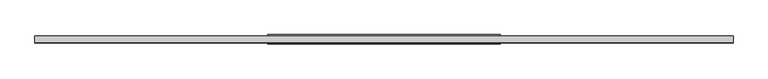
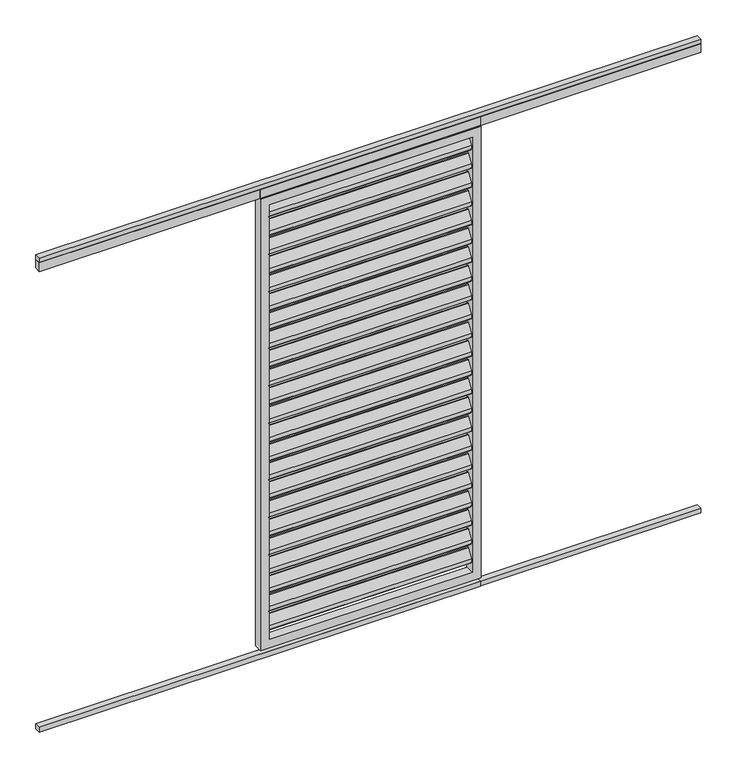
"""IFC4 building model written with IfcOpenShell, lengths in millimetres: proxy geometry, Renson_Algarve_Loggia_Paro_Aluminium : Renson_Algarve_Loggia_Paro_Aluminium."""

from ifc_helpers import new_model, si_unit, point, frame, frame_2d, origin, origin_with_axes, place, context, project, spatial, polyline, circle_curve, trimmed, segment, composite_curve, outline, extrude, source, transform, mapped, element, save


def generic_models_8ee95c79(model_context):
    return source(origin(), model_context, "Body", "SweptSolid", [
        extrude(outline(composite_curve([segment(trimmed(circle_curve(frame_2d((12.6675921, 2162.6587719)), 3.0), [point((10.1515804, 2164.292689))], [point((15.6675921, 2162.6587719))], False, "CARTESIAN"), True, "CONTINUOUS"), segment(polyline([(15.6675921, 2162.6587719), (15.6675921, 2144.2979873)]), True, "CONTINUOUS"), segment(trimmed(circle_curve(frame_2d((12.6675921, 2144.2979873)), 3.0), [point((15.6675921, 2144.2979873))], [point((15.1836038, 2142.6640702))], False, "CARTESIAN"), True, "CONTINUOUS"), segment(polyline([(15.1836038, 2142.6640702), (-8.8163962, 2105.707311)]), True, "CONTINUOUS"), segment(trimmed(circle_curve(frame_2d((-11.3324079, 2107.3412281)), 3.0), [point((-8.8163962, 2105.707311))], [point((-14.3324079, 2107.3412281))], False, "CARTESIAN"), True, "CONTINUOUS"), segment(polyline([(-14.3324079, 2107.3412281), (-14.3324079, 2126.5906532), (10.1515804, 2164.292689)]), True, "CONTINUOUS")], self_intersect=False)), frame((-460.0, 0.0, 0.0), z_axis=(1.0, 0.0, 0.0), x_axis=(0.0, 1.0, 0.0)), (0.0, 0.0, 1.0), 920.0),
        extrude(outline(composite_curve([segment(trimmed(circle_curve(frame_2d((12.6675921, 2072.6587719)), 3.0), [point((10.1515804, 2074.292689))], [point((15.6675921, 2072.6587719))], False, "CARTESIAN"), True, "CONTINUOUS"), segment(polyline([(15.6675921, 2072.6587719), (15.6675921, 2054.2979873)]), True, "CONTINUOUS"), segment(trimmed(circle_curve(frame_2d((12.6675921, 2054.2979873)), 3.0), [point((15.6675921, 2054.2979873))], [point((15.1836038, 2052.6640702))], False, "CARTESIAN"), True, "CONTINUOUS"), segment(polyline([(15.1836038, 2052.6640702), (-8.8163962, 2015.707311)]), True, "CONTINUOUS"), segment(trimmed(circle_curve(frame_2d((-11.3324079, 2017.3412281)), 3.0), [point((-8.8163962, 2015.707311))], [point((-14.3324079, 2017.3412281))], False, "CARTESIAN"), True, "CONTINUOUS"), segment(polyline([(-14.3324079, 2017.3412281), (-14.3324079, 2036.5906532), (10.1515804, 2074.292689)]), True, "CONTINUOUS")], self_intersect=False)), frame((-460.0, 0.0, 0.0), z_axis=(1.0, 0.0, 0.0), x_axis=(0.0, 1.0, 0.0)), (0.0, 0.0, 1.0), 920.0),
        extrude(outline(composite_curve([segment(trimmed(circle_curve(frame_2d((12.6675921, 1982.6587719)), 3.0), [point((10.1515804, 1984.292689))], [point((15.6675921, 1982.6587719))], False, "CARTESIAN"), True, "CONTINUOUS"), segment(polyline([(15.6675921, 1982.6587719), (15.6675921, 1964.2979873)]), True, "CONTINUOUS"), segment(trimmed(circle_curve(frame_2d((12.6675921, 1964.2979873)), 3.0), [point((15.6675921, 1964.2979873))], [point((15.1836038, 1962.6640702))], False, "CARTESIAN"), True, "CONTINUOUS"), segment(polyline([(15.1836038, 1962.6640702), (-8.8163962, 1925.707311)]), True, "CONTINUOUS"), segment(trimmed(circle_curve(frame_2d((-11.3324079, 1927.3412281)), 3.0), [point((-8.8163962, 1925.707311))], [point((-14.3324079, 1927.3412281))], False, "CARTESIAN"), True, "CONTINUOUS"), segment(polyline([(-14.3324079, 1927.3412281), (-14.3324079, 1946.5906532), (10.1515804, 1984.292689)]), True, "CONTINUOUS")], self_intersect=False)), frame((-460.0, 0.0, 0.0), z_axis=(1.0, 0.0, 0.0), x_axis=(0.0, 1.0, 0.0)), (0.0, 0.0, 1.0), 920.0),
        extrude(outline(composite_curve([segment(trimmed(circle_curve(frame_2d((12.6675921, 1892.6587719)), 3.0), [point((10.1515804, 1894.292689))], [point((15.6675921, 1892.6587719))], False, "CARTESIAN"), True, "CONTINUOUS"), segment(polyline([(15.6675921, 1892.6587719), (15.6675921, 1874.2979873)]), True, "CONTINUOUS"), segment(trimmed(circle_curve(frame_2d((12.6675921, 1874.2979873)), 3.0), [point((15.6675921, 1874.2979873))], [point((15.1836038, 1872.6640702))], False, "CARTESIAN"), True, "CONTINUOUS"), segment(polyline([(15.1836038, 1872.6640702), (-8.8163962, 1835.707311)]), True, "CONTINUOUS"), segment(trimmed(circle_curve(frame_2d((-11.3324079, 1837.3412281)), 3.0), [point((-8.8163962, 1835.707311))], [point((-14.3324079, 1837.3412281))], False, "CARTESIAN"), True, "CONTINUOUS"), segment(polyline([(-14.3324079, 1837.3412281), (-14.3324079, 1856.5906532), (10.1515804, 1894.292689)]), True, "CONTINUOUS")], self_intersect=False)), frame((-460.0, 0.0, 0.0), z_axis=(1.0, 0.0, 0.0), x_axis=(0.0, 1.0, 0.0)), (0.0, 0.0, 1.0), 920.0),
        extrude(outline(composite_curve([segment(trimmed(circle_curve(frame_2d((12.6675921, 1802.6587719)), 3.0), [point((10.1515804, 1804.292689))], [point((15.6675921, 1802.6587719))], False, "CARTESIAN"), True, "CONTINUOUS"), segment(polyline([(15.6675921, 1802.6587719), (15.6675921, 1784.2979873)]), True, "CONTINUOUS"), segment(trimmed(circle_curve(frame_2d((12.6675921, 1784.2979873)), 3.0), [point((15.6675921, 1784.2979873))], [point((15.1836038, 1782.6640702))], False, "CARTESIAN"), True, "CONTINUOUS"), segment(polyline([(15.1836038, 1782.6640702), (-8.8163962, 1745.707311)]), True, "CONTINUOUS"), segment(trimmed(circle_curve(frame_2d((-11.3324079, 1747.3412281)), 3.0), [point((-8.8163962, 1745.707311))], [point((-14.3324079, 1747.3412281))], False, "CARTESIAN"), True, "CONTINUOUS"), segment(polyline([(-14.3324079, 1747.3412281), (-14.3324079, 1766.5906532), (10.1515804, 1804.292689)]), True, "CONTINUOUS")], self_intersect=False)), frame((-460.0, 0.0, 0.0), z_axis=(1.0, 0.0, 0.0), x_axis=(0.0, 1.0, 0.0)), (0.0, 0.0, 1.0), 920.0),
        extrude(outline(composite_curve([segment(trimmed(circle_curve(frame_2d((12.6675921, 1712.6587719)), 3.0), [point((10.1515804, 1714.292689))], [point((15.6675921, 1712.6587719))], False, "CARTESIAN"), True, "CONTINUOUS"), segment(polyline([(15.6675921, 1712.6587719), (15.6675921, 1694.2979873)]), True, "CONTINUOUS"), segment(trimmed(circle_curve(frame_2d((12.6675921, 1694.2979873)), 3.0), [point((15.6675921, 1694.2979873))], [point((15.1836038, 1692.6640702))], False, "CARTESIAN"), True, "CONTINUOUS"), segment(polyline([(15.1836038, 1692.6640702), (-8.8163962, 1655.707311)]), True, "CONTINUOUS"), segment(trimmed(circle_curve(frame_2d((-11.3324079, 1657.3412281)), 3.0), [point((-8.8163962, 1655.707311))], [point((-14.3324079, 1657.3412281))], False, "CARTESIAN"), True, "CONTINUOUS"), segment(polyline([(-14.3324079, 1657.3412281), (-14.3324079, 1676.5906532), (10.1515804, 1714.292689)]), True, "CONTINUOUS")], self_intersect=False)), frame((-460.0, 0.0, 0.0), z_axis=(1.0, 0.0, 0.0), x_axis=(0.0, 1.0, 0.0)), (0.0, 0.0, 1.0), 920.0),
        extrude(outline(composite_curve([segment(trimmed(circle_curve(frame_2d((12.6675921, 1622.6587719)), 3.0), [point((10.1515804, 1624.292689))], [point((15.6675921, 1622.6587719))], False, "CARTESIAN"), True, "CONTINUOUS"), segment(polyline([(15.6675921, 1622.6587719), (15.6675921, 1604.2979873)]), True, "CONTINUOUS"), segment(trimmed(circle_curve(frame_2d((12.6675921, 1604.2979873)), 3.0), [point((15.6675921, 1604.2979873))], [point((15.1836038, 1602.6640702))], False, "CARTESIAN"), True, "CONTINUOUS"), segment(polyline([(15.1836038, 1602.6640702), (-8.8163962, 1565.707311)]), True, "CONTINUOUS"), segment(trimmed(circle_curve(frame_2d((-11.3324079, 1567.3412281)), 3.0), [point((-8.8163962, 1565.707311))], [point((-14.3324079, 1567.3412281))], False, "CARTESIAN"), True, "CONTINUOUS"), segment(polyline([(-14.3324079, 1567.3412281), (-14.3324079, 1586.5906532), (10.1515804, 1624.292689)]), True, "CONTINUOUS")], self_intersect=False)), frame((-460.0, 0.0, 0.0), z_axis=(1.0, 0.0, 0.0), x_axis=(0.0, 1.0, 0.0)), (0.0, 0.0, 1.0), 920.0),
        extrude(outline(composite_curve([segment(trimmed(circle_curve(frame_2d((12.6675921, 1532.6587719)), 3.0), [point((10.1515804, 1534.292689))], [point((15.6675921, 1532.6587719))], False, "CARTESIAN"), True, "CONTINUOUS"), segment(polyline([(15.6675921, 1532.6587719), (15.6675921, 1514.2979873)]), True, "CONTINUOUS"), segment(trimmed(circle_curve(frame_2d((12.6675921, 1514.2979873)), 3.0), [point((15.6675921, 1514.2979873))], [point((15.1836038, 1512.6640702))], False, "CARTESIAN"), True, "CONTINUOUS"), segment(polyline([(15.1836038, 1512.6640702), (-8.8163962, 1475.707311)]), True, "CONTINUOUS"), segment(trimmed(circle_curve(frame_2d((-11.3324079, 1477.3412281)), 3.0), [point((-8.8163962, 1475.707311))], [point((-14.3324079, 1477.3412281))], False, "CARTESIAN"), True, "CONTINUOUS"), segment(polyline([(-14.3324079, 1477.3412281), (-14.3324079, 1496.5906532), (10.1515804, 1534.292689)]), True, "CONTINUOUS")], self_intersect=False)), frame((-460.0, 0.0, 0.0), z_axis=(1.0, 0.0, 0.0), x_axis=(0.0, 1.0, 0.0)), (0.0, 0.0, 1.0), 920.0),
        extrude(outline(composite_curve([segment(trimmed(circle_curve(frame_2d((12.6675921, 1442.6587719)), 3.0), [point((10.1515804, 1444.292689))], [point((15.6675921, 1442.6587719))], False, "CARTESIAN"), True, "CONTINUOUS"), segment(polyline([(15.6675921, 1442.6587719), (15.6675921, 1424.2979873)]), True, "CONTINUOUS"), segment(trimmed(circle_curve(frame_2d((12.6675921, 1424.2979873)), 3.0), [point((15.6675921, 1424.2979873))], [point((15.1836038, 1422.6640702))], False, "CARTESIAN"), True, "CONTINUOUS"), segment(polyline([(15.1836038, 1422.6640702), (-8.8163962, 1385.707311)]), True, "CONTINUOUS"), segment(trimmed(circle_curve(frame_2d((-11.3324079, 1387.3412281)), 3.0), [point((-8.8163962, 1385.707311))], [point((-14.3324079, 1387.3412281))], False, "CARTESIAN"), True, "CONTINUOUS"), segment(polyline([(-14.3324079, 1387.3412281), (-14.3324079, 1406.5906532), (10.1515804, 1444.292689)]), True, "CONTINUOUS")], self_intersect=False)), frame((-460.0, 0.0, 0.0), z_axis=(1.0, 0.0, 0.0), x_axis=(0.0, 1.0, 0.0)), (0.0, 0.0, 1.0), 920.0),
        extrude(outline(composite_curve([segment(trimmed(circle_curve(frame_2d((12.6675921, 1352.6587719)), 3.0), [point((10.1515804, 1354.292689))], [point((15.6675921, 1352.6587719))], False, "CARTESIAN"), True, "CONTINUOUS"), segment(polyline([(15.6675921, 1352.6587719), (15.6675921, 1334.2979873)]), True, "CONTINUOUS"), segment(trimmed(circle_curve(frame_2d((12.6675921, 1334.2979873)), 3.0), [point((15.6675921, 1334.2979873))], [point((15.1836038, 1332.6640702))], False, "CARTESIAN"), True, "CONTINUOUS"), segment(polyline([(15.1836038, 1332.6640702), (-8.8163962, 1295.707311)]), True, "CONTINUOUS"), segment(trimmed(circle_curve(frame_2d((-11.3324079, 1297.3412281)), 3.0), [point((-8.8163962, 1295.707311))], [point((-14.3324079, 1297.3412281))], False, "CARTESIAN"), True, "CONTINUOUS"), segment(polyline([(-14.3324079, 1297.3412281), (-14.3324079, 1316.5906532), (10.1515804, 1354.292689)]), True, "CONTINUOUS")], self_intersect=False)), frame((-460.0, 0.0, 0.0), z_axis=(1.0, 0.0, 0.0), x_axis=(0.0, 1.0, 0.0)), (0.0, 0.0, 1.0), 920.0),
        extrude(outline(composite_curve([segment(trimmed(circle_curve(frame_2d((12.6675921, 1262.6587719)), 3.0), [point((10.1515804, 1264.292689))], [point((15.6675921, 1262.6587719))], False, "CARTESIAN"), True, "CONTINUOUS"), segment(polyline([(15.6675921, 1262.6587719), (15.6675921, 1244.2979873)]), True, "CONTINUOUS"), segment(trimmed(circle_curve(frame_2d((12.6675921, 1244.2979873)), 3.0), [point((15.6675921, 1244.2979873))], [point((15.1836038, 1242.6640702))], False, "CARTESIAN"), True, "CONTINUOUS"), segment(polyline([(15.1836038, 1242.6640702), (-8.8163962, 1205.707311)]), True, "CONTINUOUS"), segment(trimmed(circle_curve(frame_2d((-11.3324079, 1207.3412281)), 3.0), [point((-8.8163962, 1205.707311))], [point((-14.3324079, 1207.3412281))], False, "CARTESIAN"), True, "CONTINUOUS"), segment(polyline([(-14.3324079, 1207.3412281), (-14.3324079, 1226.5906532), (10.1515804, 1264.292689)]), True, "CONTINUOUS")], self_intersect=False)), frame((-460.0, 0.0, 0.0), z_axis=(1.0, 0.0, 0.0), x_axis=(0.0, 1.0, 0.0)), (0.0, 0.0, 1.0), 920.0),
        extrude(outline(composite_curve([segment(trimmed(circle_curve(frame_2d((12.6675921, 1172.6587719)), 3.0), [point((10.1515804, 1174.292689))], [point((15.6675921, 1172.6587719))], False, "CARTESIAN"), True, "CONTINUOUS"), segment(polyline([(15.6675921, 1172.6587719), (15.6675921, 1154.2979873)]), True, "CONTINUOUS"), segment(trimmed(circle_curve(frame_2d((12.6675921, 1154.2979873)), 3.0), [point((15.6675921, 1154.2979873))], [point((15.1836038, 1152.6640702))], False, "CARTESIAN"), True, "CONTINUOUS"), segment(polyline([(15.1836038, 1152.6640702), (-8.8163962, 1115.707311)]), True, "CONTINUOUS"), segment(trimmed(circle_curve(frame_2d((-11.3324079, 1117.3412281)), 3.0), [point((-8.8163962, 1115.707311))], [point((-14.3324079, 1117.3412281))], False, "CARTESIAN"), True, "CONTINUOUS"), segment(polyline([(-14.3324079, 1117.3412281), (-14.3324079, 1136.5906532), (10.1515804, 1174.292689)]), True, "CONTINUOUS")], self_intersect=False)), frame((-460.0, 0.0, 0.0), z_axis=(1.0, 0.0, 0.0), x_axis=(0.0, 1.0, 0.0)), (0.0, 0.0, 1.0), 920.0),
        extrude(outline(composite_curve([segment(trimmed(circle_curve(frame_2d((12.6675921, 1082.6587719)), 3.0), [point((10.1515804, 1084.292689))], [point((15.6675921, 1082.6587719))], False, "CARTESIAN"), True, "CONTINUOUS"), segment(polyline([(15.6675921, 1082.6587719), (15.6675921, 1064.2979873)]), True, "CONTINUOUS"), segment(trimmed(circle_curve(frame_2d((12.6675921, 1064.2979873)), 3.0), [point((15.6675921, 1064.2979873))], [point((15.1836038, 1062.6640702))], False, "CARTESIAN"), True, "CONTINUOUS"), segment(polyline([(15.1836038, 1062.6640702), (-8.8163962, 1025.707311)]), True, "CONTINUOUS"), segment(trimmed(circle_curve(frame_2d((-11.3324079, 1027.3412281)), 3.0), [point((-8.8163962, 1025.707311))], [point((-14.3324079, 1027.3412281))], False, "CARTESIAN"), True, "CONTINUOUS"), segment(polyline([(-14.3324079, 1027.3412281), (-14.3324079, 1046.5906532), (10.1515804, 1084.292689)]), True, "CONTINUOUS")], self_intersect=False)), frame((-460.0, 0.0, 0.0), z_axis=(1.0, 0.0, 0.0), x_axis=(0.0, 1.0, 0.0)), (0.0, 0.0, 1.0), 920.0),
        extrude(outline(composite_curve([segment(trimmed(circle_curve(frame_2d((12.6675921, 992.6587719)), 3.0), [point((10.1515804, 994.292689))], [point((15.6675921, 992.6587719))], False, "CARTESIAN"), True, "CONTINUOUS"), segment(polyline([(15.6675921, 992.6587719), (15.6675921, 974.2979873)]), True, "CONTINUOUS"), segment(trimmed(circle_curve(frame_2d((12.6675921, 974.2979873)), 3.0), [point((15.6675921, 974.2979873))], [point((15.1836038, 972.6640702))], False, "CARTESIAN"), True, "CONTINUOUS"), segment(polyline([(15.1836038, 972.6640702), (-8.8163962, 935.707311)]), True, "CONTINUOUS"), segment(trimmed(circle_curve(frame_2d((-11.3324079, 937.3412281)), 3.0), [point((-8.8163962, 935.707311))], [point((-14.3324079, 937.3412281))], False, "CARTESIAN"), True, "CONTINUOUS"), segment(polyline([(-14.3324079, 937.3412281), (-14.3324079, 956.5906532), (10.1515804, 994.292689)]), True, "CONTINUOUS")], self_intersect=False)), frame((-460.0, 0.0, 0.0), z_axis=(1.0, 0.0, 0.0), x_axis=(0.0, 1.0, 0.0)), (0.0, 0.0, 1.0), 920.0),
        extrude(outline(composite_curve([segment(trimmed(circle_curve(frame_2d((12.6675921, 902.6587719)), 3.0), [point((10.1515804, 904.292689))], [point((15.6675921, 902.6587719))], False, "CARTESIAN"), True, "CONTINUOUS"), segment(polyline([(15.6675921, 902.6587719), (15.6675921, 884.2979873)]), True, "CONTINUOUS"), segment(trimmed(circle_curve(frame_2d((12.6675921, 884.2979873)), 3.0), [point((15.6675921, 884.2979873))], [point((15.1836038, 882.6640702))], False, "CARTESIAN"), True, "CONTINUOUS"), segment(polyline([(15.1836038, 882.6640702), (-8.8163962, 845.707311)]), True, "CONTINUOUS"), segment(trimmed(circle_curve(frame_2d((-11.3324079, 847.3412281)), 3.0), [point((-8.8163962, 845.707311))], [point((-14.3324079, 847.3412281))], False, "CARTESIAN"), True, "CONTINUOUS"), segment(polyline([(-14.3324079, 847.3412281), (-14.3324079, 866.5906532), (10.1515804, 904.292689)]), True, "CONTINUOUS")], self_intersect=False)), frame((-460.0, 0.0, 0.0), z_axis=(1.0, 0.0, 0.0), x_axis=(0.0, 1.0, 0.0)), (0.0, 0.0, 1.0), 920.0),
        extrude(outline(composite_curve([segment(trimmed(circle_curve(frame_2d((12.6675921, 812.6587719)), 3.0), [point((10.1515804, 814.292689))], [point((15.6675921, 812.6587719))], False, "CARTESIAN"), True, "CONTINUOUS"), segment(polyline([(15.6675921, 812.6587719), (15.6675921, 794.2979873)]), True, "CONTINUOUS"), segment(trimmed(circle_curve(frame_2d((12.6675921, 794.2979873)), 3.0), [point((15.6675921, 794.2979873))], [point((15.1836038, 792.6640702))], False, "CARTESIAN"), True, "CONTINUOUS"), segment(polyline([(15.1836038, 792.6640702), (-8.8163962, 755.707311)]), True, "CONTINUOUS"), segment(trimmed(circle_curve(frame_2d((-11.3324079, 757.3412281)), 3.0), [point((-8.8163962, 755.707311))], [point((-14.3324079, 757.3412281))], False, "CARTESIAN"), True, "CONTINUOUS"), segment(polyline([(-14.3324079, 757.3412281), (-14.3324079, 776.5906532), (10.1515804, 814.292689)]), True, "CONTINUOUS")], self_intersect=False)), frame((-460.0, 0.0, 0.0), z_axis=(1.0, 0.0, 0.0), x_axis=(0.0, 1.0, 0.0)), (0.0, 0.0, 1.0), 920.0),
        extrude(outline(composite_curve([segment(trimmed(circle_curve(frame_2d((12.6675921, 722.6587719)), 3.0), [point((10.1515804, 724.292689))], [point((15.6675921, 722.6587719))], False, "CARTESIAN"), True, "CONTINUOUS"), segment(polyline([(15.6675921, 722.6587719), (15.6675921, 704.2979873)]), True, "CONTINUOUS"), segment(trimmed(circle_curve(frame_2d((12.6675921, 704.2979873)), 3.0), [point((15.6675921, 704.2979873))], [point((15.1836038, 702.6640702))], False, "CARTESIAN"), True, "CONTINUOUS"), segment(polyline([(15.1836038, 702.6640702), (-8.8163962, 665.707311)]), True, "CONTINUOUS"), segment(trimmed(circle_curve(frame_2d((-11.3324079, 667.3412281)), 3.0), [point((-8.8163962, 665.707311))], [point((-14.3324079, 667.3412281))], False, "CARTESIAN"), True, "CONTINUOUS"), segment(polyline([(-14.3324079, 667.3412281), (-14.3324079, 686.5906532), (10.1515804, 724.292689)]), True, "CONTINUOUS")], self_intersect=False)), frame((-460.0, 0.0, 0.0), z_axis=(1.0, 0.0, 0.0), x_axis=(0.0, 1.0, 0.0)), (0.0, 0.0, 1.0), 920.0),
        extrude(outline(composite_curve([segment(trimmed(circle_curve(frame_2d((12.6675921, 632.6587719)), 3.0), [point((10.1515804, 634.292689))], [point((15.6675921, 632.6587719))], False, "CARTESIAN"), True, "CONTINUOUS"), segment(polyline([(15.6675921, 632.6587719), (15.6675921, 614.2979873)]), True, "CONTINUOUS"), segment(trimmed(circle_curve(frame_2d((12.6675921, 614.2979873)), 3.0), [point((15.6675921, 614.2979873))], [point((15.1836038, 612.6640702))], False, "CARTESIAN"), True, "CONTINUOUS"), segment(polyline([(15.1836038, 612.6640702), (-8.8163962, 575.707311)]), True, "CONTINUOUS"), segment(trimmed(circle_curve(frame_2d((-11.3324079, 577.3412281)), 3.0), [point((-8.8163962, 575.707311))], [point((-14.3324079, 577.3412281))], False, "CARTESIAN"), True, "CONTINUOUS"), segment(polyline([(-14.3324079, 577.3412281), (-14.3324079, 596.5906532), (10.1515804, 634.292689)]), True, "CONTINUOUS")], self_intersect=False)), frame((-460.0, 0.0, 0.0), z_axis=(1.0, 0.0, 0.0), x_axis=(0.0, 1.0, 0.0)), (0.0, 0.0, 1.0), 920.0),
        extrude(outline(composite_curve([segment(trimmed(circle_curve(frame_2d((12.6675921, 542.6587719)), 3.0), [point((10.1515804, 544.292689))], [point((15.6675921, 542.6587719))], False, "CARTESIAN"), True, "CONTINUOUS"), segment(polyline([(15.6675921, 542.6587719), (15.6675921, 524.2979873)]), True, "CONTINUOUS"), segment(trimmed(circle_curve(frame_2d((12.6675921, 524.2979873)), 3.0), [point((15.6675921, 524.2979873))], [point((15.1836038, 522.6640702))], False, "CARTESIAN"), True, "CONTINUOUS"), segment(polyline([(15.1836038, 522.6640702), (-8.8163962, 485.707311)]), True, "CONTINUOUS"), segment(trimmed(circle_curve(frame_2d((-11.3324079, 487.3412281)), 3.0), [point((-8.8163962, 485.707311))], [point((-14.3324079, 487.3412281))], False, "CARTESIAN"), True, "CONTINUOUS"), segment(polyline([(-14.3324079, 487.3412281), (-14.3324079, 506.5906532), (10.1515804, 544.292689)]), True, "CONTINUOUS")], self_intersect=False)), frame((-460.0, 0.0, 0.0), z_axis=(1.0, 0.0, 0.0), x_axis=(0.0, 1.0, 0.0)), (0.0, 0.0, 1.0), 920.0),
        extrude(outline(composite_curve([segment(trimmed(circle_curve(frame_2d((12.6675921, 452.6587719)), 3.0), [point((10.1515804, 454.292689))], [point((15.6675921, 452.6587719))], False, "CARTESIAN"), True, "CONTINUOUS"), segment(polyline([(15.6675921, 452.6587719), (15.6675921, 434.2979873)]), True, "CONTINUOUS"), segment(trimmed(circle_curve(frame_2d((12.6675921, 434.2979873)), 3.0), [point((15.6675921, 434.2979873))], [point((15.1836038, 432.6640702))], False, "CARTESIAN"), True, "CONTINUOUS"), segment(polyline([(15.1836038, 432.6640702), (-8.8163962, 395.707311)]), True, "CONTINUOUS"), segment(trimmed(circle_curve(frame_2d((-11.3324079, 397.3412281)), 3.0), [point((-8.8163962, 395.707311))], [point((-14.3324079, 397.3412281))], False, "CARTESIAN"), True, "CONTINUOUS"), segment(polyline([(-14.3324079, 397.3412281), (-14.3324079, 416.5906532), (10.1515804, 454.292689)]), True, "CONTINUOUS")], self_intersect=False)), frame((-460.0, 0.0, 0.0), z_axis=(1.0, 0.0, 0.0), x_axis=(0.0, 1.0, 0.0)), (0.0, 0.0, 1.0), 920.0),
        extrude(outline(composite_curve([segment(trimmed(circle_curve(frame_2d((12.6675921, 362.6587719)), 3.0), [point((10.1515804, 364.292689))], [point((15.6675921, 362.6587719))], False, "CARTESIAN"), True, "CONTINUOUS"), segment(polyline([(15.6675921, 362.6587719), (15.6675921, 344.2979873)]), True, "CONTINUOUS"), segment(trimmed(circle_curve(frame_2d((12.6675921, 344.2979873)), 3.0), [point((15.6675921, 344.2979873))], [point((15.1836038, 342.6640702))], False, "CARTESIAN"), True, "CONTINUOUS"), segment(polyline([(15.1836038, 342.6640702), (-8.8163962, 305.707311)]), True, "CONTINUOUS"), segment(trimmed(circle_curve(frame_2d((-11.3324079, 307.3412281)), 3.0), [point((-8.8163962, 305.707311))], [point((-14.3324079, 307.3412281))], False, "CARTESIAN"), True, "CONTINUOUS"), segment(polyline([(-14.3324079, 307.3412281), (-14.3324079, 326.5906532), (10.1515804, 364.292689)]), True, "CONTINUOUS")], self_intersect=False)), frame((-460.0, 0.0, 0.0), z_axis=(1.0, 0.0, 0.0), x_axis=(0.0, 1.0, 0.0)), (0.0, 0.0, 1.0), 920.0),
        extrude(outline(composite_curve([segment(trimmed(circle_curve(frame_2d((12.6675921, 272.6587719)), 3.0), [point((10.1515804, 274.292689))], [point((15.6675921, 272.6587719))], False, "CARTESIAN"), True, "CONTINUOUS"), segment(polyline([(15.6675921, 272.6587719), (15.6675921, 254.2979873)]), True, "CONTINUOUS"), segment(trimmed(circle_curve(frame_2d((12.6675921, 254.2979873)), 3.0), [point((15.6675921, 254.2979873))], [point((15.1836038, 252.6640702))], False, "CARTESIAN"), True, "CONTINUOUS"), segment(polyline([(15.1836038, 252.6640702), (-8.8163962, 215.707311)]), True, "CONTINUOUS"), segment(trimmed(circle_curve(frame_2d((-11.3324079, 217.3412281)), 3.0), [point((-8.8163962, 215.707311))], [point((-14.3324079, 217.3412281))], False, "CARTESIAN"), True, "CONTINUOUS"), segment(polyline([(-14.3324079, 217.3412281), (-14.3324079, 236.5906532), (10.1515804, 274.292689)]), True, "CONTINUOUS")], self_intersect=False)), frame((-460.0, 0.0, 0.0), z_axis=(1.0, 0.0, 0.0), x_axis=(0.0, 1.0, 0.0)), (0.0, 0.0, 1.0), 920.0),
        extrude(outline(composite_curve([segment(trimmed(circle_curve(frame_2d((12.6675921, 182.6587719)), 3.0), [point((10.1515804, 184.292689))], [point((15.6675921, 182.6587719))], False, "CARTESIAN"), True, "CONTINUOUS"), segment(polyline([(15.6675921, 182.6587719), (15.6675921, 164.2979873)]), True, "CONTINUOUS"), segment(trimmed(circle_curve(frame_2d((12.6675921, 164.2979873)), 3.0), [point((15.6675921, 164.2979873))], [point((15.1836038, 162.6640702))], False, "CARTESIAN"), True, "CONTINUOUS"), segment(polyline([(15.1836038, 162.6640702), (-8.8163962, 125.707311)]), True, "CONTINUOUS"), segment(trimmed(circle_curve(frame_2d((-11.3324079, 127.3412281)), 3.0), [point((-8.8163962, 125.707311))], [point((-14.3324079, 127.3412281))], False, "CARTESIAN"), True, "CONTINUOUS"), segment(polyline([(-14.3324079, 127.3412281), (-14.3324079, 146.5906532), (10.1515804, 184.292689)]), True, "CONTINUOUS")], self_intersect=False)), frame((-460.0, 0.0, 0.0), z_axis=(1.0, 0.0, 0.0), x_axis=(0.0, 1.0, 0.0)), (0.0, 0.0, 1.0), 920.0),
        extrude(outline(polyline([(1500.0, -13.0), (-1500.0, -13.0), (-1500.0, 14.0), (1500.0, 14.0), (1500.0, -13.0)])), frame((0.0, 0.0, 2250.0), z_axis=(0.0, 0.0, 1.0), x_axis=(1.0, 0.0, 0.0)), (0.0, 0.0, 1.0), 20.0),
        extrude(outline(polyline([(500.0, 15.0), (500.0, -15.0), (-1500.0, -15.0), (-1500.0, 15.0), (500.0, 15.0)])), frame((0.0, 0.0, 2207.7138321), z_axis=(0.0, 0.0, 1.0), x_axis=(1.0, 0.0, 0.0)), (0.0, 0.0, 1.0), 42.2861679),
        extrude(outline(polyline([(1500.0, 15.0), (1500.0, -15.0), (-500.0, -15.0), (-500.0, 15.0), (1500.0, 15.0)])), frame((0.0, 0.0, 2207.7138321), z_axis=(0.0, 0.0, 1.0), x_axis=(1.0, 0.0, 0.0)), (0.0, 0.0, 1.0), 42.2861679),
        extrude(outline(polyline([(500.0, -13.0), (-1500.0, -13.0), (-1500.0, 14.0), (500.0, 14.0), (500.0, -13.0)])), origin_with_axes(), (0.0, 0.0, 1.0), 23.0),
        extrude(outline(polyline([(1500.0, -13.0), (-500.0, -13.0), (-500.0, 14.0), (1500.0, 14.0), (1500.0, -13.0)])), origin_with_axes(), (0.0, 0.0, 1.0), 23.0),
        extrude(outline(polyline([(2207.7138321, -500.0), (45.0, -500.0), (45.0, 500.0), (2207.7138321, 500.0), (2207.7138321, -500.0)]), holes=[polyline([(2167.7138321, 460.0), (85.0, 460.0), (85.0, -460.0), (2167.7138321, -460.0), (2167.7138321, 460.0)])]), frame((0.0, -20.0, 0.0), z_axis=(0.0, 1.0, 0.0), x_axis=(0.0, 0.0, 1.0)), (0.0, 0.0, 1.0), 40.0),
    ])


if __name__ == "__main__":
    model = new_model("IFC4")
    model_context = context("Model", 3, world=origin())
    ifc_project = project(units=[si_unit("LENGTHUNIT", "METRE", prefix="MILLI")], contexts=[model_context])
    site = spatial("IfcSite", under=ifc_project)
    building = spatial("IfcBuilding", under=site)
    placement = place(None, origin())
    generic_models_shape = generic_models_8ee95c79(model_context)
    element("IfcBuildingElementProxy", 1, Name="Renson_Algarve_Loggia_Paro_Aluminium : Renson_Algarve_Loggia_Paro_Aluminium", ObjectType="Renson_Algarve_Loggia_Paro_Aluminium : Renson_Algarve_Loggia_Paro_Aluminium", at=placement, inside=building, context=model_context, shape_type="MappedRepresentation", body=[
        mapped(generic_models_shape, transform((0.0, 0.0, 0.0), x_axis=(1.0, 0.0, 0.0), y_axis=(0.0, 1.0, 0.0), z_axis=(0.0, 0.0, 1.0))),
    ])
    save(model, "model.ifc")
